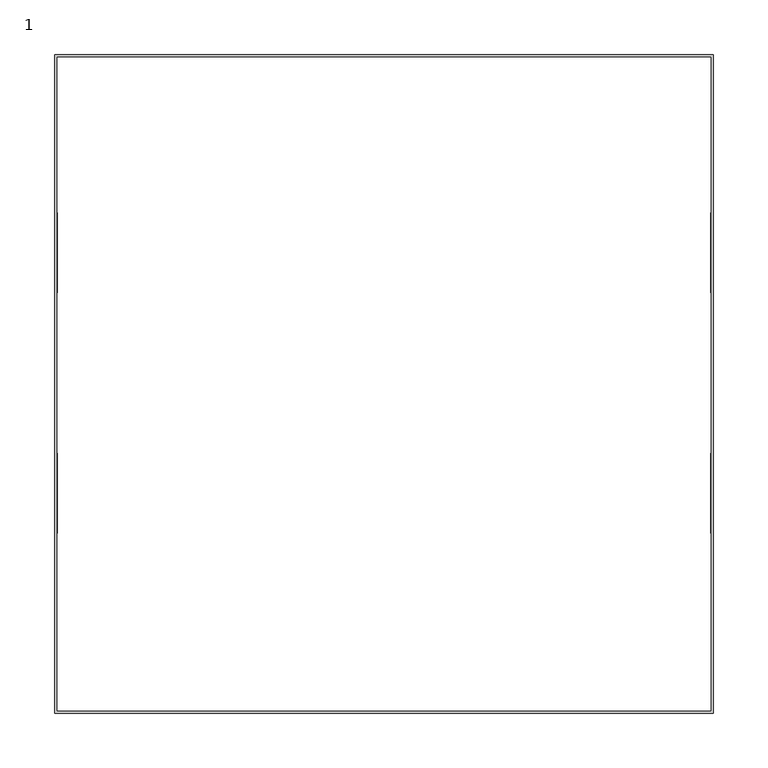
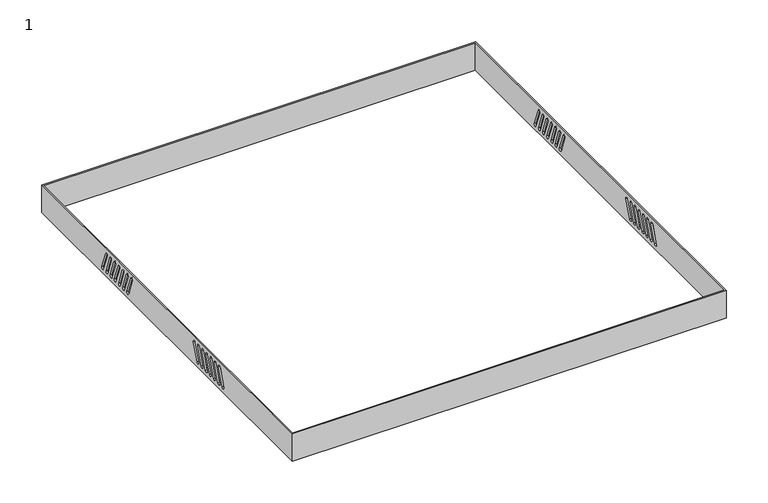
"""IFC4 building model written with IfcOpenShell, lengths in millimetres: proxy geometry, 1."""

from ifc_helpers import new_model, si_unit, frame, origin, place, context, project, spatial, polyline, circle_curve, source, transform, mapped, element, save
from ifc_brep_helpers import plane_surface, revolved_surface, advanced_brep


def proxy_1_0199d2f3(model_context):
    return source(origin(), model_context, "Body", "AdvancedBrep", [
        advanced_brep(
        [(298.0, -298.0, 0.0), (298.0, -298.0, 40.0), (298.0, 298.0, 40.0), (298.0, 298.0, 0.0), (298.0, -135.8, 8.2520321), (298.0, -132.0412295, 6.8839516), (298.0, -123.1487058, 31.3159597), (298.0, -126.9074763, 32.6840403), (298.0, -125.8, 8.2520321), (298.0, -122.0412295, 6.8839516), (298.0, -113.1487058, 31.3159597), (298.0, -116.9074763, 32.6840403), (298.0, -115.8, 8.2520321), (298.0, -112.0412295, 6.8839516), (298.0, -103.1487058, 31.3159597), (298.0, -106.9074763, 32.6840403), (298.0, -105.8, 8.2520321), (298.0, -102.0412295, 6.8839516), (298.0, -93.1487058, 31.3159597), (298.0, -96.9074763, 32.6840403), (298.0, -95.8, 8.2520321), (298.0, -92.0412295, 6.8839516), (298.0, -83.1487058, 31.3159597), (298.0, -86.9074763, 32.6840403), (298.0, -85.8, 8.2520321), (298.0, -82.0412295, 6.8839516), (298.0, -73.1487058, 31.3159597), (298.0, -76.9074763, 32.6840403), (298.0, -75.8, 8.2520321), (298.0, -72.0412295, 6.8839516), (298.0, -63.1487058, 31.3159597), (298.0, -66.9074763, 32.6840403), (298.0, 152.2412295, 6.8839516), (298.0, 156.0, 8.2520321), (298.0, 147.1074763, 32.6840403), (298.0, 143.3487058, 31.3159597), (298.0, 142.2412295, 6.8839516), (298.0, 146.0, 8.2520321), (298.0, 137.1074763, 32.6840403), (298.0, 133.3487058, 31.3159597), (298.0, 132.2412295, 6.8839516), (298.0, 136.0, 8.2520321), (298.0, 127.1074763, 32.6840403), (298.0, 123.3487058, 31.3159597), (298.0, 122.2412295, 6.8839516), (298.0, 126.0, 8.2520321), (298.0, 117.1074763, 32.6840403), (298.0, 113.3487058, 31.3159597), (298.0, 112.2412295, 6.8839516), (298.0, 116.0, 8.2520321), (298.0, 107.1074763, 32.6840403), (298.0, 103.3487058, 31.3159597), (298.0, 102.2412295, 6.8839516), (298.0, 106.0, 8.2520321), (298.0, 97.1074763, 32.6840403), (298.0, 93.3487058, 31.3159597), (298.0, 92.2412295, 6.8839516), (298.0, 96.0, 8.2520321), (298.0, 87.1074763, 32.6840403), (298.0, 83.3487058, 31.3159597), (300.0, -300.0, 0.0), (300.0, 300.0, 0.0), (300.0, 300.0, 40.0), (300.0, -300.0, 40.0), (300.0, -132.0412295, 6.8839516), (300.0, -135.8, 8.2520321), (300.0, -126.9074763, 32.6840403), (300.0, -123.1487058, 31.3159597), (300.0, -122.0412295, 6.8839516), (300.0, -125.8, 8.2520321), (300.0, -116.9074763, 32.6840403), (300.0, -113.1487058, 31.3159597), (300.0, -112.0412295, 6.8839516), (300.0, -115.8, 8.2520321), (300.0, -106.9074763, 32.6840403), (300.0, -103.1487058, 31.3159597), (300.0, -102.0412295, 6.8839516), (300.0, -105.8, 8.2520321), (300.0, -96.9074763, 32.6840403), (300.0, -93.1487058, 31.3159597), (300.0, -92.0412295, 6.8839516), (300.0, -95.8, 8.2520321), (300.0, -86.9074763, 32.6840403), (300.0, -83.1487058, 31.3159597), (300.0, -82.0412295, 6.8839516), (300.0, -85.8, 8.2520321), (300.0, -76.9074763, 32.6840403), (300.0, -73.1487058, 31.3159597), (300.0, -72.0412295, 6.8839516), (300.0, -75.8, 8.2520321), (300.0, -66.9074763, 32.6840403), (300.0, -63.1487058, 31.3159597), (300.0, 156.0, 8.2520321), (300.0, 152.2412295, 6.8839516), (300.0, 143.3487058, 31.3159597), (300.0, 147.1074763, 32.6840403), (300.0, 146.0, 8.2520321), (300.0, 142.2412295, 6.8839516), (300.0, 133.3487058, 31.3159597), (300.0, 137.1074763, 32.6840403), (300.0, 136.0, 8.2520321), (300.0, 132.2412295, 6.8839516), (300.0, 123.3487058, 31.3159597), (300.0, 127.1074763, 32.6840403), (300.0, 126.0, 8.2520321), (300.0, 122.2412295, 6.8839516), (300.0, 113.3487058, 31.3159597), (300.0, 117.1074763, 32.6840403), (300.0, 116.0, 8.2520321), (300.0, 112.2412295, 6.8839516), (300.0, 103.3487058, 31.3159597), (300.0, 107.1074763, 32.6840403), (300.0, 106.0, 8.2520321), (300.0, 102.2412295, 6.8839516), (300.0, 93.3487058, 31.3159597), (300.0, 97.1074763, 32.6840403), (300.0, 96.0, 8.2520321), (300.0, 92.2412295, 6.8839516), (300.0, 83.3487058, 31.3159597), (300.0, 87.1074763, 32.6840403), (-300.0, -300.0, 0.0), (-300.0, 300.0, 0.0), (-298.0, 298.0, 0.0), (-298.0, -298.0, 0.0), (-300.0, -300.0, 40.0), (-300.0, 300.0, 40.0), (-298.0, -298.0, 40.0), (-298.0, 298.0, 40.0), (-298.0, 96.0, 8.2520321), (-298.0, 92.2412295, 6.8839516), (-298.0, 83.3487058, 31.3159597), (-298.0, 87.1074763, 32.6840403), (-298.0, 106.0, 8.2520321), (-298.0, 102.2412295, 6.8839516), (-298.0, 93.3487058, 31.3159597), (-298.0, 97.1074763, 32.6840403), (-298.0, 116.0, 8.2520321), (-298.0, 112.2412295, 6.8839516), (-298.0, 103.3487058, 31.3159597), (-298.0, 107.1074763, 32.6840403), (-298.0, 126.0, 8.2520321), (-298.0, 122.2412295, 6.8839516), (-298.0, 113.3487058, 31.3159597), (-298.0, 117.1074763, 32.6840403), (-298.0, 136.0, 8.2520321), (-298.0, 132.2412295, 6.8839516), (-298.0, 123.3487058, 31.3159597), (-298.0, 127.1074763, 32.6840403), (-298.0, 146.0, 8.2520321), (-298.0, 142.2412295, 6.8839516), (-298.0, 133.3487058, 31.3159597), (-298.0, 137.1074763, 32.6840403), (-298.0, 156.0, 8.2520321), (-298.0, 152.2412295, 6.8839516), (-298.0, 143.3487058, 31.3159597), (-298.0, 147.1074763, 32.6840403), (-298.0, -66.9074763, 32.6840403), (-298.0, -63.1487058, 31.3159597), (-298.0, -72.0412295, 6.8839516), (-298.0, -75.8, 8.2520321), (-298.0, -76.9074763, 32.6840403), (-298.0, -73.1487058, 31.3159597), (-298.0, -82.0412295, 6.8839516), (-298.0, -85.8, 8.2520321), (-298.0, -86.9074763, 32.6840403), (-298.0, -83.1487058, 31.3159597), (-298.0, -92.0412295, 6.8839516), (-298.0, -95.8, 8.2520321), (-298.0, -96.9074763, 32.6840403), (-298.0, -93.1487058, 31.3159597), (-298.0, -102.0412295, 6.8839516), (-298.0, -105.8, 8.2520321), (-298.0, -106.9074763, 32.6840403), (-298.0, -103.1487058, 31.3159597), (-298.0, -112.0412295, 6.8839516), (-298.0, -115.8, 8.2520321), (-298.0, -116.9074763, 32.6840403), (-298.0, -113.1487058, 31.3159597), (-298.0, -122.0412295, 6.8839516), (-298.0, -125.8, 8.2520321), (-298.0, -126.9074763, 32.6840403), (-298.0, -123.1487058, 31.3159597), (-298.0, -132.0412295, 6.8839516), (-298.0, -135.8, 8.2520321), (-300.0, 92.2412295, 6.8839516), (-300.0, 96.0, 8.2520321), (-300.0, 87.1074763, 32.6840403), (-300.0, 83.3487058, 31.3159597), (-300.0, 102.2412295, 6.8839516), (-300.0, 106.0, 8.2520321), (-300.0, 97.1074763, 32.6840403), (-300.0, 93.3487058, 31.3159597), (-300.0, 112.2412295, 6.8839516), (-300.0, 116.0, 8.2520321), (-300.0, 107.1074763, 32.6840403), (-300.0, 103.3487058, 31.3159597), (-300.0, 122.2412295, 6.8839516), (-300.0, 126.0, 8.2520321), (-300.0, 117.1074763, 32.6840403), (-300.0, 113.3487058, 31.3159597), (-300.0, 132.2412295, 6.8839516), (-300.0, 136.0, 8.2520321), (-300.0, 127.1074763, 32.6840403), (-300.0, 123.3487058, 31.3159597), (-300.0, 142.2412295, 6.8839516), (-300.0, 146.0, 8.2520321), (-300.0, 137.1074763, 32.6840403), (-300.0, 133.3487058, 31.3159597), (-300.0, 152.2412295, 6.8839516), (-300.0, 156.0, 8.2520321), (-300.0, 147.1074763, 32.6840403), (-300.0, 143.3487058, 31.3159597), (-300.0, -63.1487058, 31.3159597), (-300.0, -66.9074763, 32.6840403), (-300.0, -75.8, 8.2520321), (-300.0, -72.0412295, 6.8839516), (-300.0, -73.1487058, 31.3159597), (-300.0, -76.9074763, 32.6840403), (-300.0, -85.8, 8.2520321), (-300.0, -82.0412295, 6.8839516), (-300.0, -83.1487058, 31.3159597), (-300.0, -86.9074763, 32.6840403), (-300.0, -95.8, 8.2520321), (-300.0, -92.0412295, 6.8839516), (-300.0, -93.1487058, 31.3159597), (-300.0, -96.9074763, 32.6840403), (-300.0, -105.8, 8.2520321), (-300.0, -102.0412295, 6.8839516), (-300.0, -103.1487058, 31.3159597), (-300.0, -106.9074763, 32.6840403), (-300.0, -115.8, 8.2520321), (-300.0, -112.0412295, 6.8839516), (-300.0, -113.1487058, 31.3159597), (-300.0, -116.9074763, 32.6840403), (-300.0, -125.8, 8.2520321), (-300.0, -122.0412295, 6.8839516), (-300.0, -123.1487058, 31.3159597), (-300.0, -126.9074763, 32.6840403), (-300.0, -135.8, 8.2520321), (-300.0, -132.0412295, 6.8839516)],
        [
            (0, 1),
            (1, 2),
            (2, 3),
            (3, 0),
            (4, 5, circle_curve(frame((298.0, -133.9206148, 7.5679919), z_axis=(1.0, 0.0, 0.0), x_axis=(0.0, -1.0, 0.0)), 2.0)),
            (5, 6),
            (6, 7, circle_curve(frame((298.0, -125.028091, 32.0), z_axis=(1.0, 0.0, 0.0), x_axis=(0.0, -1.0, 0.0)), 2.0)),
            (7, 4),
            (8, 9, circle_curve(frame((298.0, -123.9206148, 7.5679919), z_axis=(1.0, 0.0, 0.0), x_axis=(0.0, -1.0, 0.0)), 2.0)),
            (9, 10),
            (10, 11, circle_curve(frame((298.0, -115.028091, 32.0), z_axis=(1.0, 0.0, 0.0), x_axis=(0.0, -1.0, 0.0)), 2.0)),
            (11, 8),
            (12, 13, circle_curve(frame((298.0, -113.9206148, 7.5679919), z_axis=(1.0, 0.0, 0.0), x_axis=(0.0, -1.0, 0.0)), 2.0)),
            (13, 14),
            (14, 15, circle_curve(frame((298.0, -105.028091, 32.0), z_axis=(1.0, 0.0, 0.0), x_axis=(0.0, -1.0, 0.0)), 2.0)),
            (15, 12),
            (16, 17, circle_curve(frame((298.0, -103.9206148, 7.5679919), z_axis=(1.0, 0.0, 0.0), x_axis=(0.0, -1.0, 0.0)), 2.0)),
            (17, 18),
            (18, 19, circle_curve(frame((298.0, -95.028091, 32.0), z_axis=(1.0, 0.0, 0.0), x_axis=(0.0, -1.0, 0.0)), 2.0)),
            (19, 16),
            (20, 21, circle_curve(frame((298.0, -93.9206148, 7.5679919), z_axis=(1.0, 0.0, 0.0), x_axis=(0.0, -1.0, 0.0)), 2.0)),
            (21, 22),
            (22, 23, circle_curve(frame((298.0, -85.028091, 32.0), z_axis=(1.0, 0.0, 0.0), x_axis=(0.0, -1.0, 0.0)), 2.0)),
            (23, 20),
            (24, 25, circle_curve(frame((298.0, -83.9206148, 7.5679919), z_axis=(1.0, 0.0, 0.0), x_axis=(0.0, -1.0, 0.0)), 2.0)),
            (25, 26),
            (26, 27, circle_curve(frame((298.0, -75.028091, 32.0), z_axis=(1.0, 0.0, 0.0), x_axis=(0.0, -1.0, 0.0)), 2.0)),
            (27, 24),
            (28, 29, circle_curve(frame((298.0, -73.9206148, 7.5679919), z_axis=(1.0, 0.0, 0.0), x_axis=(0.0, -1.0, 0.0)), 2.0)),
            (29, 30),
            (30, 31, circle_curve(frame((298.0, -65.028091, 32.0), z_axis=(1.0, 0.0, 0.0), x_axis=(0.0, -1.0, 0.0)), 2.0)),
            (31, 28),
            (32, 33, circle_curve(frame((298.0, 154.1206148, 7.5679919), z_axis=(1.0, 0.0, 0.0), x_axis=(0.0, 1.0, 0.0)), 2.0)),
            (33, 34),
            (34, 35, circle_curve(frame((298.0, 145.228091, 32.0), z_axis=(1.0, 0.0, 0.0), x_axis=(0.0, 1.0, 0.0)), 2.0)),
            (35, 32),
            (36, 37, circle_curve(frame((298.0, 144.1206148, 7.5679919), z_axis=(1.0, 0.0, 0.0), x_axis=(0.0, 1.0, 0.0)), 2.0)),
            (37, 38),
            (38, 39, circle_curve(frame((298.0, 135.228091, 32.0), z_axis=(1.0, 0.0, 0.0), x_axis=(0.0, 1.0, 0.0)), 2.0)),
            (39, 36),
            (40, 41, circle_curve(frame((298.0, 134.1206148, 7.5679919), z_axis=(1.0, 0.0, 0.0), x_axis=(0.0, 1.0, 0.0)), 2.0)),
            (41, 42),
            (42, 43, circle_curve(frame((298.0, 125.228091, 32.0), z_axis=(1.0, 0.0, 0.0), x_axis=(0.0, 1.0, 0.0)), 2.0)),
            (43, 40),
            (44, 45, circle_curve(frame((298.0, 124.1206148, 7.5679919), z_axis=(1.0, 0.0, 0.0), x_axis=(0.0, 1.0, 0.0)), 2.0)),
            (45, 46),
            (46, 47, circle_curve(frame((298.0, 115.228091, 32.0), z_axis=(1.0, 0.0, 0.0), x_axis=(0.0, 1.0, 0.0)), 2.0)),
            (47, 44),
            (48, 49, circle_curve(frame((298.0, 114.1206148, 7.5679919), z_axis=(1.0, 0.0, 0.0), x_axis=(0.0, 1.0, 0.0)), 2.0)),
            (49, 50),
            (50, 51, circle_curve(frame((298.0, 105.228091, 32.0), z_axis=(1.0, 0.0, 0.0), x_axis=(0.0, 1.0, 0.0)), 2.0)),
            (51, 48),
            (52, 53, circle_curve(frame((298.0, 104.1206148, 7.5679919), z_axis=(1.0, 0.0, 0.0), x_axis=(0.0, 1.0, 0.0)), 2.0)),
            (53, 54),
            (54, 55, circle_curve(frame((298.0, 95.228091, 32.0), z_axis=(1.0, 0.0, 0.0), x_axis=(0.0, 1.0, 0.0)), 2.0)),
            (55, 52),
            (56, 57, circle_curve(frame((298.0, 94.1206148, 7.5679919), z_axis=(1.0, 0.0, 0.0), x_axis=(0.0, 1.0, 0.0)), 2.0)),
            (57, 58),
            (58, 59, circle_curve(frame((298.0, 85.228091, 32.0), z_axis=(1.0, 0.0, 0.0), x_axis=(0.0, 1.0, 0.0)), 2.0)),
            (59, 56),
            (60, 61),
            (61, 62),
            (62, 63),
            (63, 60),
            (64, 65, circle_curve(frame((300.0, -133.9206148, 7.5679919), z_axis=(-1.0, 0.0, 0.0), x_axis=(0.0, -1.0, 0.0)), 2.0)),
            (65, 66),
            (66, 67, circle_curve(frame((300.0, -125.028091, 32.0), z_axis=(-1.0, 0.0, 0.0), x_axis=(0.0, -1.0, 0.0)), 2.0)),
            (67, 64),
            (68, 69, circle_curve(frame((300.0, -123.9206148, 7.5679919), z_axis=(-1.0, 0.0, 0.0), x_axis=(0.0, -1.0, 0.0)), 2.0)),
            (69, 70),
            (70, 71, circle_curve(frame((300.0, -115.028091, 32.0), z_axis=(-1.0, 0.0, 0.0), x_axis=(0.0, -1.0, 0.0)), 2.0)),
            (71, 68),
            (72, 73, circle_curve(frame((300.0, -113.9206148, 7.5679919), z_axis=(-1.0, 0.0, 0.0), x_axis=(0.0, -1.0, 0.0)), 2.0)),
            (73, 74),
            (74, 75, circle_curve(frame((300.0, -105.028091, 32.0), z_axis=(-1.0, 0.0, 0.0), x_axis=(0.0, -1.0, 0.0)), 2.0)),
            (75, 72),
            (76, 77, circle_curve(frame((300.0, -103.9206148, 7.5679919), z_axis=(-1.0, 0.0, 0.0), x_axis=(0.0, -1.0, 0.0)), 2.0)),
            (77, 78),
            (78, 79, circle_curve(frame((300.0, -95.028091, 32.0), z_axis=(-1.0, 0.0, 0.0), x_axis=(0.0, -1.0, 0.0)), 2.0)),
            (79, 76),
            (80, 81, circle_curve(frame((300.0, -93.9206148, 7.5679919), z_axis=(-1.0, 0.0, 0.0), x_axis=(0.0, -1.0, 0.0)), 2.0)),
            (81, 82),
            (82, 83, circle_curve(frame((300.0, -85.028091, 32.0), z_axis=(-1.0, 0.0, 0.0), x_axis=(0.0, -1.0, 0.0)), 2.0)),
            (83, 80),
            (84, 85, circle_curve(frame((300.0, -83.9206148, 7.5679919), z_axis=(-1.0, 0.0, 0.0), x_axis=(0.0, -1.0, 0.0)), 2.0)),
            (85, 86),
            (86, 87, circle_curve(frame((300.0, -75.028091, 32.0), z_axis=(-1.0, 0.0, 0.0), x_axis=(0.0, -1.0, 0.0)), 2.0)),
            (87, 84),
            (88, 89, circle_curve(frame((300.0, -73.9206148, 7.5679919), z_axis=(-1.0, 0.0, 0.0), x_axis=(0.0, -1.0, 0.0)), 2.0)),
            (89, 90),
            (90, 91, circle_curve(frame((300.0, -65.028091, 32.0), z_axis=(-1.0, 0.0, 0.0), x_axis=(0.0, -1.0, 0.0)), 2.0)),
            (91, 88),
            (92, 93, circle_curve(frame((300.0, 154.1206148, 7.5679919), z_axis=(-1.0, 0.0, 0.0), x_axis=(0.0, 1.0, 0.0)), 2.0)),
            (93, 94),
            (94, 95, circle_curve(frame((300.0, 145.228091, 32.0), z_axis=(-1.0, 0.0, 0.0), x_axis=(0.0, 1.0, 0.0)), 2.0)),
            (95, 92),
            (96, 97, circle_curve(frame((300.0, 144.1206148, 7.5679919), z_axis=(-1.0, 0.0, 0.0), x_axis=(0.0, 1.0, 0.0)), 2.0)),
            (97, 98),
            (98, 99, circle_curve(frame((300.0, 135.228091, 32.0), z_axis=(-1.0, 0.0, 0.0), x_axis=(0.0, 1.0, 0.0)), 2.0)),
            (99, 96),
            (100, 101, circle_curve(frame((300.0, 134.1206148, 7.5679919), z_axis=(-1.0, 0.0, 0.0), x_axis=(0.0, 1.0, 0.0)), 2.0)),
            (101, 102),
            (102, 103, circle_curve(frame((300.0, 125.228091, 32.0), z_axis=(-1.0, 0.0, 0.0), x_axis=(0.0, 1.0, 0.0)), 2.0)),
            (103, 100),
            (104, 105, circle_curve(frame((300.0, 124.1206148, 7.5679919), z_axis=(-1.0, 0.0, 0.0), x_axis=(0.0, 1.0, 0.0)), 2.0)),
            (105, 106),
            (106, 107, circle_curve(frame((300.0, 115.228091, 32.0), z_axis=(-1.0, 0.0, 0.0), x_axis=(0.0, 1.0, 0.0)), 2.0)),
            (107, 104),
            (108, 109, circle_curve(frame((300.0, 114.1206148, 7.5679919), z_axis=(-1.0, 0.0, 0.0), x_axis=(0.0, 1.0, 0.0)), 2.0)),
            (109, 110),
            (110, 111, circle_curve(frame((300.0, 105.228091, 32.0), z_axis=(-1.0, 0.0, 0.0), x_axis=(0.0, 1.0, 0.0)), 2.0)),
            (111, 108),
            (112, 113, circle_curve(frame((300.0, 104.1206148, 7.5679919), z_axis=(-1.0, 0.0, 0.0), x_axis=(0.0, 1.0, 0.0)), 2.0)),
            (113, 114),
            (114, 115, circle_curve(frame((300.0, 95.228091, 32.0), z_axis=(-1.0, 0.0, 0.0), x_axis=(0.0, 1.0, 0.0)), 2.0)),
            (115, 112),
            (116, 117, circle_curve(frame((300.0, 94.1206148, 7.5679919), z_axis=(-1.0, 0.0, 0.0), x_axis=(0.0, 1.0, 0.0)), 2.0)),
            (117, 118),
            (118, 119, circle_curve(frame((300.0, 85.228091, 32.0), z_axis=(-1.0, 0.0, 0.0), x_axis=(0.0, 1.0, 0.0)), 2.0)),
            (119, 116),
            (60, 120),
            (120, 121),
            (121, 61),
            (3, 122),
            (122, 123),
            (123, 0),
            (63, 124),
            (124, 120),
            (62, 125),
            (125, 124),
            (126, 127),
            (127, 2),
            (1, 126),
            (121, 125),
            (64, 5),
            (4, 65),
            (67, 6),
            (66, 7),
            (68, 9),
            (8, 69),
            (71, 10),
            (70, 11),
            (72, 13),
            (12, 73),
            (75, 14),
            (74, 15),
            (76, 17),
            (16, 77),
            (79, 18),
            (78, 19),
            (80, 21),
            (20, 81),
            (83, 22),
            (82, 23),
            (84, 25),
            (24, 85),
            (87, 26),
            (86, 27),
            (88, 29),
            (28, 89),
            (91, 30),
            (90, 31),
            (92, 33),
            (32, 93),
            (35, 94),
            (34, 95),
            (96, 37),
            (36, 97),
            (39, 98),
            (38, 99),
            (100, 41),
            (40, 101),
            (43, 102),
            (42, 103),
            (104, 45),
            (44, 105),
            (47, 106),
            (46, 107),
            (108, 49),
            (48, 109),
            (51, 110),
            (50, 111),
            (112, 53),
            (52, 113),
            (55, 114),
            (54, 115),
            (116, 57),
            (56, 117),
            (59, 118),
            (58, 119),
            (123, 126),
            (122, 127),
            (128, 129, circle_curve(frame((-298.0, 94.1206148, 7.5679919), z_axis=(-1.0, 0.0, 0.0), x_axis=(0.0, 1.0, 0.0)), 2.0)),
            (129, 130),
            (130, 131, circle_curve(frame((-298.0, 85.228091, 32.0), z_axis=(-1.0, 0.0, 0.0), x_axis=(0.0, 1.0, 0.0)), 2.0)),
            (131, 128),
            (132, 133, circle_curve(frame((-298.0, 104.1206148, 7.5679919), z_axis=(-1.0, 0.0, 0.0), x_axis=(0.0, 1.0, 0.0)), 2.0)),
            (133, 134),
            (134, 135, circle_curve(frame((-298.0, 95.228091, 32.0), z_axis=(-1.0, 0.0, 0.0), x_axis=(0.0, 1.0, 0.0)), 2.0)),
            (135, 132),
            (136, 137, circle_curve(frame((-298.0, 114.1206148, 7.5679919), z_axis=(-1.0, 0.0, 0.0), x_axis=(0.0, 1.0, 0.0)), 2.0)),
            (137, 138),
            (138, 139, circle_curve(frame((-298.0, 105.228091, 32.0), z_axis=(-1.0, 0.0, 0.0), x_axis=(0.0, 1.0, 0.0)), 2.0)),
            (139, 136),
            (140, 141, circle_curve(frame((-298.0, 124.1206148, 7.5679919), z_axis=(-1.0, 0.0, 0.0), x_axis=(0.0, 1.0, 0.0)), 2.0)),
            (141, 142),
            (142, 143, circle_curve(frame((-298.0, 115.228091, 32.0), z_axis=(-1.0, 0.0, 0.0), x_axis=(0.0, 1.0, 0.0)), 2.0)),
            (143, 140),
            (144, 145, circle_curve(frame((-298.0, 134.1206148, 7.5679919), z_axis=(-1.0, 0.0, 0.0), x_axis=(0.0, 1.0, 0.0)), 2.0)),
            (145, 146),
            (146, 147, circle_curve(frame((-298.0, 125.228091, 32.0), z_axis=(-1.0, 0.0, 0.0), x_axis=(0.0, 1.0, 0.0)), 2.0)),
            (147, 144),
            (148, 149, circle_curve(frame((-298.0, 144.1206148, 7.5679919), z_axis=(-1.0, 0.0, 0.0), x_axis=(0.0, 1.0, 0.0)), 2.0)),
            (149, 150),
            (150, 151, circle_curve(frame((-298.0, 135.228091, 32.0), z_axis=(-1.0, 0.0, 0.0), x_axis=(0.0, 1.0, 0.0)), 2.0)),
            (151, 148),
            (152, 153, circle_curve(frame((-298.0, 154.1206148, 7.5679919), z_axis=(-1.0, 0.0, 0.0), x_axis=(0.0, 1.0, 0.0)), 2.0)),
            (153, 154),
            (154, 155, circle_curve(frame((-298.0, 145.228091, 32.0), z_axis=(-1.0, 0.0, 0.0), x_axis=(0.0, 1.0, 0.0)), 2.0)),
            (155, 152),
            (156, 157, circle_curve(frame((-298.0, -65.028091, 32.0), z_axis=(-1.0, 0.0, 0.0), x_axis=(0.0, 1.0, 0.0)), 2.0)),
            (157, 158),
            (158, 159, circle_curve(frame((-298.0, -73.9206148, 7.5679919), z_axis=(-1.0, 0.0, 0.0), x_axis=(0.0, 1.0, 0.0)), 2.0)),
            (159, 156),
            (160, 161, circle_curve(frame((-298.0, -75.028091, 32.0), z_axis=(-1.0, 0.0, 0.0), x_axis=(0.0, 1.0, 0.0)), 2.0)),
            (161, 162),
            (162, 163, circle_curve(frame((-298.0, -83.9206148, 7.5679919), z_axis=(-1.0, 0.0, 0.0), x_axis=(0.0, 1.0, 0.0)), 2.0)),
            (163, 160),
            (164, 165, circle_curve(frame((-298.0, -85.028091, 32.0), z_axis=(-1.0, 0.0, 0.0), x_axis=(0.0, 1.0, 0.0)), 2.0)),
            (165, 166),
            (166, 167, circle_curve(frame((-298.0, -93.9206148, 7.5679919), z_axis=(-1.0, 0.0, 0.0), x_axis=(0.0, 1.0, 0.0)), 2.0)),
            (167, 164),
            (168, 169, circle_curve(frame((-298.0, -95.028091, 32.0), z_axis=(-1.0, 0.0, 0.0), x_axis=(0.0, 1.0, 0.0)), 2.0)),
            (169, 170),
            (170, 171, circle_curve(frame((-298.0, -103.9206148, 7.5679919), z_axis=(-1.0, 0.0, 0.0), x_axis=(0.0, 1.0, 0.0)), 2.0)),
            (171, 168),
            (172, 173, circle_curve(frame((-298.0, -105.028091, 32.0), z_axis=(-1.0, 0.0, 0.0), x_axis=(0.0, 1.0, 0.0)), 2.0)),
            (173, 174),
            (174, 175, circle_curve(frame((-298.0, -113.9206148, 7.5679919), z_axis=(-1.0, 0.0, 0.0), x_axis=(0.0, 1.0, 0.0)), 2.0)),
            (175, 172),
            (176, 177, circle_curve(frame((-298.0, -115.028091, 32.0), z_axis=(-1.0, 0.0, 0.0), x_axis=(0.0, 1.0, 0.0)), 2.0)),
            (177, 178),
            (178, 179, circle_curve(frame((-298.0, -123.9206148, 7.5679919), z_axis=(-1.0, 0.0, 0.0), x_axis=(0.0, 1.0, 0.0)), 2.0)),
            (179, 176),
            (180, 181, circle_curve(frame((-298.0, -125.028091, 32.0), z_axis=(-1.0, 0.0, 0.0), x_axis=(0.0, 1.0, 0.0)), 2.0)),
            (181, 182),
            (182, 183, circle_curve(frame((-298.0, -133.9206148, 7.5679919), z_axis=(-1.0, 0.0, 0.0), x_axis=(0.0, 1.0, 0.0)), 2.0)),
            (183, 180),
            (184, 185, circle_curve(frame((-300.0, 94.1206148, 7.5679919), z_axis=(1.0, 0.0, 0.0), x_axis=(0.0, 1.0, 0.0)), 2.0)),
            (185, 186),
            (186, 187, circle_curve(frame((-300.0, 85.228091, 32.0), z_axis=(1.0, 0.0, 0.0), x_axis=(0.0, 1.0, 0.0)), 2.0)),
            (187, 184),
            (188, 189, circle_curve(frame((-300.0, 104.1206148, 7.5679919), z_axis=(1.0, 0.0, 0.0), x_axis=(0.0, 1.0, 0.0)), 2.0)),
            (189, 190),
            (190, 191, circle_curve(frame((-300.0, 95.228091, 32.0), z_axis=(1.0, 0.0, 0.0), x_axis=(0.0, 1.0, 0.0)), 2.0)),
            (191, 188),
            (192, 193, circle_curve(frame((-300.0, 114.1206148, 7.5679919), z_axis=(1.0, 0.0, 0.0), x_axis=(0.0, 1.0, 0.0)), 2.0)),
            (193, 194),
            (194, 195, circle_curve(frame((-300.0, 105.228091, 32.0), z_axis=(1.0, 0.0, 0.0), x_axis=(0.0, 1.0, 0.0)), 2.0)),
            (195, 192),
            (196, 197, circle_curve(frame((-300.0, 124.1206148, 7.5679919), z_axis=(1.0, 0.0, 0.0), x_axis=(0.0, 1.0, 0.0)), 2.0)),
            (197, 198),
            (198, 199, circle_curve(frame((-300.0, 115.228091, 32.0), z_axis=(1.0, 0.0, 0.0), x_axis=(0.0, 1.0, 0.0)), 2.0)),
            (199, 196),
            (200, 201, circle_curve(frame((-300.0, 134.1206148, 7.5679919), z_axis=(1.0, 0.0, 0.0), x_axis=(0.0, 1.0, 0.0)), 2.0)),
            (201, 202),
            (202, 203, circle_curve(frame((-300.0, 125.228091, 32.0), z_axis=(1.0, 0.0, 0.0), x_axis=(0.0, 1.0, 0.0)), 2.0)),
            (203, 200),
            (204, 205, circle_curve(frame((-300.0, 144.1206148, 7.5679919), z_axis=(1.0, 0.0, 0.0), x_axis=(0.0, 1.0, 0.0)), 2.0)),
            (205, 206),
            (206, 207, circle_curve(frame((-300.0, 135.228091, 32.0), z_axis=(1.0, 0.0, 0.0), x_axis=(0.0, 1.0, 0.0)), 2.0)),
            (207, 204),
            (208, 209, circle_curve(frame((-300.0, 154.1206148, 7.5679919), z_axis=(1.0, 0.0, 0.0), x_axis=(0.0, 1.0, 0.0)), 2.0)),
            (209, 210),
            (210, 211, circle_curve(frame((-300.0, 145.228091, 32.0), z_axis=(1.0, 0.0, 0.0), x_axis=(0.0, 1.0, 0.0)), 2.0)),
            (211, 208),
            (212, 213, circle_curve(frame((-300.0, -65.028091, 32.0), z_axis=(1.0, 0.0, 0.0), x_axis=(0.0, 1.0, 0.0)), 2.0)),
            (213, 214),
            (214, 215, circle_curve(frame((-300.0, -73.9206148, 7.5679919), z_axis=(1.0, 0.0, 0.0), x_axis=(0.0, 1.0, 0.0)), 2.0)),
            (215, 212),
            (216, 217, circle_curve(frame((-300.0, -75.028091, 32.0), z_axis=(1.0, 0.0, 0.0), x_axis=(0.0, 1.0, 0.0)), 2.0)),
            (217, 218),
            (218, 219, circle_curve(frame((-300.0, -83.9206148, 7.5679919), z_axis=(1.0, 0.0, 0.0), x_axis=(0.0, 1.0, 0.0)), 2.0)),
            (219, 216),
            (220, 221, circle_curve(frame((-300.0, -85.028091, 32.0), z_axis=(1.0, 0.0, 0.0), x_axis=(0.0, 1.0, 0.0)), 2.0)),
            (221, 222),
            (222, 223, circle_curve(frame((-300.0, -93.9206148, 7.5679919), z_axis=(1.0, 0.0, 0.0), x_axis=(0.0, 1.0, 0.0)), 2.0)),
            (223, 220),
            (224, 225, circle_curve(frame((-300.0, -95.028091, 32.0), z_axis=(1.0, 0.0, 0.0), x_axis=(0.0, 1.0, 0.0)), 2.0)),
            (225, 226),
            (226, 227, circle_curve(frame((-300.0, -103.9206148, 7.5679919), z_axis=(1.0, 0.0, 0.0), x_axis=(0.0, 1.0, 0.0)), 2.0)),
            (227, 224),
            (228, 229, circle_curve(frame((-300.0, -105.028091, 32.0), z_axis=(1.0, 0.0, 0.0), x_axis=(0.0, 1.0, 0.0)), 2.0)),
            (229, 230),
            (230, 231, circle_curve(frame((-300.0, -113.9206148, 7.5679919), z_axis=(1.0, 0.0, 0.0), x_axis=(0.0, 1.0, 0.0)), 2.0)),
            (231, 228),
            (232, 233, circle_curve(frame((-300.0, -115.028091, 32.0), z_axis=(1.0, 0.0, 0.0), x_axis=(0.0, 1.0, 0.0)), 2.0)),
            (233, 234),
            (234, 235, circle_curve(frame((-300.0, -123.9206148, 7.5679919), z_axis=(1.0, 0.0, 0.0), x_axis=(0.0, 1.0, 0.0)), 2.0)),
            (235, 232),
            (236, 237, circle_curve(frame((-300.0, -125.028091, 32.0), z_axis=(1.0, 0.0, 0.0), x_axis=(0.0, 1.0, 0.0)), 2.0)),
            (237, 238),
            (238, 239, circle_curve(frame((-300.0, -133.9206148, 7.5679919), z_axis=(1.0, 0.0, 0.0), x_axis=(0.0, 1.0, 0.0)), 2.0)),
            (239, 236),
            (128, 185),
            (184, 129),
            (131, 186),
            (130, 187),
            (132, 189),
            (188, 133),
            (135, 190),
            (134, 191),
            (136, 193),
            (192, 137),
            (139, 194),
            (138, 195),
            (140, 197),
            (196, 141),
            (143, 198),
            (142, 199),
            (144, 201),
            (200, 145),
            (147, 202),
            (146, 203),
            (148, 205),
            (204, 149),
            (151, 206),
            (150, 207),
            (152, 209),
            (208, 153),
            (155, 210),
            (154, 211),
            (156, 213),
            (212, 157),
            (159, 214),
            (158, 215),
            (160, 217),
            (216, 161),
            (163, 218),
            (162, 219),
            (164, 221),
            (220, 165),
            (167, 222),
            (166, 223),
            (168, 225),
            (224, 169),
            (171, 226),
            (170, 227),
            (172, 229),
            (228, 173),
            (175, 230),
            (174, 231),
            (176, 233),
            (232, 177),
            (179, 234),
            (178, 235),
            (180, 237),
            (236, 181),
            (183, 238),
            (182, 239),
        ],
        [
            plane_surface(frame((298.0, 300.0, 0.0), z_axis=(-1.0, 0.0, 0.0), x_axis=(0.0, 0.0, -1.0))),
            plane_surface(frame((300.0, 300.0, 0.0), z_axis=(1.0, 0.0, 0.0), x_axis=(0.0, 0.0, 1.0))),
            plane_surface(frame((300.0, -300.0, 0.0), z_axis=(0.0, 0.0, -1.0), x_axis=(-1.0, 0.0, 0.0))),
            plane_surface(frame((300.0, -300.0, 40.0), z_axis=(0.0, -1.0, 0.0), x_axis=(-1.0, 0.0, 0.0))),
            plane_surface(frame((300.0, 300.0, 40.0), z_axis=(0.0, 0.0, 1.0), x_axis=(-1.0, 0.0, 0.0))),
            plane_surface(frame((300.0, 300.0, 0.0), z_axis=(0.0, 1.0, 0.0), x_axis=(-1.0, 0.0, 0.0))),
            revolved_surface(polyline([(300.0, -135.9206148, 7.5679919), (298.0, -135.9206148, 7.5679919)]), (298.0, -133.9206148, 7.5679919), (1.0, 0.0, 0.0)),
            plane_surface(frame((300.0, -132.0412295, 6.8839516), z_axis=(0.0, -0.9396926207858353, 0.34202014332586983), x_axis=(-1.0, 0.0, 0.0))),
            revolved_surface(polyline([(300.0, -127.028091, 32.0), (298.0, -127.028091, 32.0)]), (298.0, -125.028091, 32.0), (1.0, 0.0, 0.0)),
            plane_surface(frame((300.0, -126.9074763, 32.6840403), z_axis=(0.0, 0.9396926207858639, -0.34202014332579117), x_axis=(-1.0, 0.0, 0.0))),
            revolved_surface(polyline([(300.0, -125.9206148, 7.5679919), (298.0, -125.9206148, 7.5679919)]), (300.0, -123.9206148, 7.5679919), (1.0, 0.0, 0.0)),
            plane_surface(frame((300.0, -122.0412295, 6.8839516), z_axis=(0.0, -0.9396926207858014, 0.34202014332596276), x_axis=(-1.0, 0.0, 0.0))),
            revolved_surface(polyline([(300.0, -117.028091, 32.0), (298.0, -117.028091, 32.0)]), (300.0, -115.028091, 32.0), (1.0, 0.0, 0.0)),
            plane_surface(frame((300.0, -116.9074763, 32.6840403), z_axis=(0.0, 0.9396926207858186, -0.34202014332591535), x_axis=(-1.0, 0.0, 0.0))),
            revolved_surface(polyline([(300.0, -115.9206148, 7.5679919), (298.0, -115.9206148, 7.5679919)]), (300.0, -113.9206148, 7.5679919), (1.0, 0.0, 0.0)),
            plane_surface(frame((300.0, -112.0412295, 6.8839516), z_axis=(0.0, -0.9396926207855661, 0.3420201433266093), x_axis=(-1.0, 0.0, 0.0))),
            revolved_surface(polyline([(300.0, -107.028091, 32.0), (298.0, -107.028091, 32.0)]), (300.0, -105.028091, 32.0), (1.0, 0.0, 0.0)),
            plane_surface(frame((300.0, -106.9074763, 32.6840403), z_axis=(0.0, 0.9396926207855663, -0.3420201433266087), x_axis=(-1.0, 0.0, 0.0))),
            revolved_surface(polyline([(300.0, -105.9206148, 7.5679919), (298.0, -105.9206148, 7.5679919)]), (300.0, -103.9206148, 7.5679919), (1.0, 0.0, 0.0)),
            plane_surface(frame((300.0, -102.0412295, 6.8839516), z_axis=(0.0, -0.9396926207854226, 0.3420201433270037), x_axis=(-1.0, 0.0, 0.0))),
            revolved_surface(polyline([(300.0, -97.028091, 32.0), (298.0, -97.028091, 32.0)]), (300.0, -95.028091, 32.0), (1.0, 0.0, 0.0)),
            plane_surface(frame((300.0, -96.9074763, 32.6840403), z_axis=(0.0, 0.939692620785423, -0.3420201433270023), x_axis=(-1.0, 0.0, 0.0))),
            revolved_surface(polyline([(300.0, -95.9206148, 7.5679919), (298.0, -95.9206148, 7.5679919)]), (300.0, -93.9206148, 7.5679919), (1.0, 0.0, 0.0)),
            plane_surface(frame((300.0, -92.0412295, 6.8839516), z_axis=(0.0, -0.9396926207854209, 0.34202014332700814), x_axis=(-1.0, 0.0, 0.0))),
            revolved_surface(polyline([(300.0, -87.028091, 32.0), (298.0, -87.028091, 32.0)]), (300.0, -85.028091, 32.0), (1.0, 0.0, 0.0)),
            plane_surface(frame((300.0, -86.9074763, 32.6840403), z_axis=(0.0, 0.9396926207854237, -0.3420201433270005), x_axis=(-1.0, 0.0, 0.0))),
            revolved_surface(polyline([(300.0, -85.9206148, 7.5679919), (298.0, -85.9206148, 7.5679919)]), (300.0, -83.9206148, 7.5679919), (1.0, 0.0, 0.0)),
            plane_surface(frame((300.0, -82.0412295, 6.8839516), z_axis=(0.0, -0.9396926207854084, 0.3420201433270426), x_axis=(-1.0, 0.0, 0.0))),
            revolved_surface(polyline([(300.0, -77.028091, 32.0), (298.0, -77.028091, 32.0)]), (300.0, -75.028091, 32.0), (1.0, 0.0, 0.0)),
            plane_surface(frame((300.0, -76.9074763, 32.6840403), z_axis=(0.0, 0.9396926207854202, -0.3420201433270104), x_axis=(-1.0, 0.0, 0.0))),
            revolved_surface(polyline([(300.0, -75.9206148, 7.5679919), (298.0, -75.9206148, 7.5679919)]), (300.0, -73.9206148, 7.5679919), (1.0, 0.0, 0.0)),
            plane_surface(frame((300.0, -72.0412295, 6.8839516), z_axis=(0.0, -0.9396926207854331, 0.34202014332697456), x_axis=(-1.0, 0.0, 0.0))),
            revolved_surface(polyline([(300.0, -67.028091, 32.0), (298.0, -67.028091, 32.0)]), (300.0, -65.028091, 32.0), (1.0, 0.0, 0.0)),
            plane_surface(frame((300.0, -66.9074763, 32.6840403), z_axis=(0.0, 0.9396926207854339, -0.3420201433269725), x_axis=(-1.0, 0.0, 0.0))),
            revolved_surface(polyline([(300.0, 156.1206148, 7.5679919), (298.0, 156.1206148, 7.5679919)]), (298.0, 154.1206148, 7.5679919), (1.0, 0.0, 0.0)),
            plane_surface(frame((300.0, 143.3487058, 31.3159597), z_axis=(0.0, 0.93969262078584, 0.34202014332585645), x_axis=(-1.0, 0.0, 0.0))),
            revolved_surface(polyline([(300.0, 147.228091, 32.0), (298.0, 147.228091, 32.0)]), (298.0, 145.228091, 32.0), (1.0, 0.0, 0.0)),
            plane_surface(frame((300.0, 156.0, 8.2520321), z_axis=(0.0, -0.9396926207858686, -0.3420201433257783), x_axis=(-1.0, 0.0, 0.0))),
            revolved_surface(polyline([(300.0, 146.1206148, 7.5679919), (298.0, 146.1206148, 7.5679919)]), (300.0, 144.1206148, 7.5679919), (1.0, 0.0, 0.0)),
            plane_surface(frame((300.0, 133.3487058, 31.3159597), z_axis=(0.0, 0.9396926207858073, 0.3420201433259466), x_axis=(-1.0, 0.0, 0.0))),
            revolved_surface(polyline([(300.0, 137.228091, 32.0), (298.0, 137.228091, 32.0)]), (300.0, 135.228091, 32.0), (1.0, 0.0, 0.0)),
            plane_surface(frame((300.0, 146.0, 8.2520321), z_axis=(0.0, -0.9396926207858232, -0.3420201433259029), x_axis=(-1.0, 0.0, 0.0))),
            revolved_surface(polyline([(300.0, 136.1206148, 7.5679919), (298.0, 136.1206148, 7.5679919)]), (300.0, 134.1206148, 7.5679919), (1.0, 0.0, 0.0)),
            plane_surface(frame((300.0, 123.3487058, 31.3159597), z_axis=(0.0, 0.9396926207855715, 0.3420201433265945), x_axis=(-1.0, 0.0, 0.0))),
            revolved_surface(polyline([(300.0, 127.228091, 32.0), (298.0, 127.228091, 32.0)]), (300.0, 125.228091, 32.0), (1.0, 0.0, 0.0)),
            plane_surface(frame((300.0, 136.0, 8.2520321), z_axis=(0.0, -0.9396926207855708, -0.34202014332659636), x_axis=(-1.0, 0.0, 0.0))),
            revolved_surface(polyline([(300.0, 126.1206148, 7.5679919), (298.0, 126.1206148, 7.5679919)]), (300.0, 124.1206148, 7.5679919), (1.0, 0.0, 0.0)),
            plane_surface(frame((300.0, 113.3487058, 31.3159597), z_axis=(0.0, 0.9396926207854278, 0.3420201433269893), x_axis=(-1.0, 0.0, 0.0))),
            revolved_surface(polyline([(300.0, 117.228091, 32.0), (298.0, 117.228091, 32.0)]), (300.0, 115.228091, 32.0), (1.0, 0.0, 0.0)),
            plane_surface(frame((300.0, 126.0, 8.2520321), z_axis=(0.0, -0.9396926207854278, -0.3420201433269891), x_axis=(-1.0, 0.0, 0.0))),
            revolved_surface(polyline([(300.0, 116.1206148, 7.5679919), (298.0, 116.1206148, 7.5679919)]), (300.0, 114.1206148, 7.5679919), (1.0, 0.0, 0.0)),
            plane_surface(frame((300.0, 103.3487058, 31.3159597), z_axis=(0.0, 0.9396926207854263, 0.34202014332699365), x_axis=(-1.0, 0.0, 0.0))),
            revolved_surface(polyline([(300.0, 107.228091, 32.0), (298.0, 107.228091, 32.0)]), (300.0, 105.228091, 32.0), (1.0, 0.0, 0.0)),
            plane_surface(frame((300.0, 116.0, 8.2520321), z_axis=(0.0, -0.9396926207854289, -0.34202014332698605), x_axis=(-1.0, 0.0, 0.0))),
            revolved_surface(polyline([(300.0, 106.1206148, 7.5679919), (298.0, 106.1206148, 7.5679919)]), (300.0, 104.1206148, 7.5679919), (1.0, 0.0, 0.0)),
            plane_surface(frame((300.0, 93.3487058, 31.3159597), z_axis=(0.0, 0.9396926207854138, 0.3420201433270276), x_axis=(-1.0, 0.0, 0.0))),
            revolved_surface(polyline([(300.0, 97.228091, 32.0), (298.0, 97.228091, 32.0)]), (300.0, 95.228091, 32.0), (1.0, 0.0, 0.0)),
            plane_surface(frame((300.0, 106.0, 8.2520321), z_axis=(0.0, -0.9396926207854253, -0.34202014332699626), x_axis=(-1.0, 0.0, 0.0))),
            revolved_surface(polyline([(300.0, 96.1206148, 7.5679919), (298.0, 96.1206148, 7.5679919)]), (300.0, 94.1206148, 7.5679919), (1.0, 0.0, 0.0)),
            plane_surface(frame((300.0, 83.3487058, 31.3159597), z_axis=(0.0, 0.9396926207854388, 0.34202014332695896), x_axis=(-1.0, 0.0, 0.0))),
            revolved_surface(polyline([(300.0, 87.228091, 32.0), (298.0, 87.228091, 32.0)]), (300.0, 85.228091, 32.0), (1.0, 0.0, 0.0)),
            plane_surface(frame((300.0, 96.0, 8.2520321), z_axis=(0.0, -0.9396926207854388, -0.3420201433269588), x_axis=(-1.0, 0.0, 0.0))),
            plane_surface(frame((300.0, -298.0, 40.0), z_axis=(0.0, 1.0, 0.0), x_axis=(0.0, 0.0, -1.0))),
            plane_surface(frame((-298.0, -300.0, 40.0), z_axis=(1.0, 0.0, 0.0), x_axis=(0.0, 0.0, -1.0))),
            plane_surface(frame((-300.0, -300.0, 40.0), z_axis=(-1.0, 0.0, 0.0), x_axis=(0.0, 0.0, 1.0))),
            revolved_surface(polyline([(-298.0, 96.1206148, 7.5679919), (-300.0, 96.1206148, 7.5679919)]), (-300.0, 94.1206148, 7.5679919), (1.0, 0.0, 0.0)),
            plane_surface(frame((-298.0, 96.0, 8.2520321), z_axis=(0.0, -0.9396926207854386, -0.3420201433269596), x_axis=(-1.0, 0.0, 0.0))),
            revolved_surface(polyline([(-298.0, 87.228091, 32.0), (-300.0, 87.228091, 32.0)]), (-300.0, 85.228091, 32.0), (1.0, 0.0, 0.0)),
            plane_surface(frame((-298.0, 83.3487058, 31.3159597), z_axis=(0.0, 0.9396926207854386, 0.34202014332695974), x_axis=(-1.0, 0.0, 0.0))),
            revolved_surface(polyline([(-298.0, 106.1206148, 7.5679919), (-300.0, 106.1206148, 7.5679919)]), (-300.0, 104.1206148, 7.5679919), (1.0, 0.0, 0.0)),
            plane_surface(frame((-298.0, 106.0, 8.2520321), z_axis=(0.0, -0.9396926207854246, -0.342020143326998), x_axis=(-1.0, 0.0, 0.0))),
            revolved_surface(polyline([(-298.0, 97.228091, 32.0), (-300.0, 97.228091, 32.0)]), (-300.0, 95.228091, 32.0), (1.0, 0.0, 0.0)),
            plane_surface(frame((-298.0, 93.3487058, 31.3159597), z_axis=(0.0, 0.9396926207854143, 0.3420201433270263), x_axis=(-1.0, 0.0, 0.0))),
            revolved_surface(polyline([(-298.0, 116.1206148, 7.5679919), (-300.0, 116.1206148, 7.5679919)]), (-300.0, 114.1206148, 7.5679919), (1.0, 0.0, 0.0)),
            plane_surface(frame((-298.0, 116.0, 8.2520321), z_axis=(0.0, -0.9396926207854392, -0.34202014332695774), x_axis=(-1.0, 0.0, 0.0))),
            revolved_surface(polyline([(-298.0, 107.228091, 32.0), (-300.0, 107.228091, 32.0)]), (-300.0, 105.228091, 32.0), (1.0, 0.0, 0.0)),
            plane_surface(frame((-298.0, 103.3487058, 31.3159597), z_axis=(0.0, 0.939692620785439, 0.34202014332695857), x_axis=(-1.0, 0.0, 0.0))),
            revolved_surface(polyline([(-298.0, 126.1206148, 7.5679919), (-300.0, 126.1206148, 7.5679919)]), (-300.0, 124.1206148, 7.5679919), (1.0, 0.0, 0.0)),
            plane_surface(frame((-298.0, 126.0, 8.2520321), z_axis=(0.0, -0.9396926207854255, -0.34202014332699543), x_axis=(-1.0, 0.0, 0.0))),
            revolved_surface(polyline([(-298.0, 117.228091, 32.0), (-300.0, 117.228091, 32.0)]), (-300.0, 115.228091, 32.0), (1.0, 0.0, 0.0)),
            plane_surface(frame((-298.0, 113.3487058, 31.3159597), z_axis=(0.0, 0.9396926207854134, 0.3420201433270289), x_axis=(-1.0, 0.0, 0.0))),
            revolved_surface(polyline([(-298.0, 136.1206148, 7.5679919), (-300.0, 136.1206148, 7.5679919)]), (-300.0, 134.1206148, 7.5679919), (1.0, 0.0, 0.0)),
            plane_surface(frame((-298.0, 136.0, 8.2520321), z_axis=(0.0, -0.9396926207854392, -0.3420201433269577), x_axis=(-1.0, 0.0, 0.0))),
            revolved_surface(polyline([(-298.0, 127.228091, 32.0), (-300.0, 127.228091, 32.0)]), (-300.0, 125.228091, 32.0), (1.0, 0.0, 0.0)),
            plane_surface(frame((-298.0, 123.3487058, 31.3159597), z_axis=(0.0, 0.9396926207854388, 0.3420201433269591), x_axis=(-1.0, 0.0, 0.0))),
            revolved_surface(polyline([(-298.0, 146.1206148, 7.5679919), (-300.0, 146.1206148, 7.5679919)]), (-300.0, 144.1206148, 7.5679919), (1.0, 0.0, 0.0)),
            plane_surface(frame((-298.0, 146.0, 8.2520321), z_axis=(0.0, -0.9396926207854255, -0.34202014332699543), x_axis=(-1.0, 0.0, 0.0))),
            revolved_surface(polyline([(-298.0, 137.228091, 32.0), (-300.0, 137.228091, 32.0)]), (-300.0, 135.228091, 32.0), (1.0, 0.0, 0.0)),
            plane_surface(frame((-298.0, 133.3487058, 31.3159597), z_axis=(0.0, 0.9396926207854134, 0.3420201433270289), x_axis=(-1.0, 0.0, 0.0))),
            revolved_surface(polyline([(-298.0, 156.1206148, 7.5679919), (-300.0, 156.1206148, 7.5679919)]), (-300.0, 154.1206148, 7.5679919), (1.0, 0.0, 0.0)),
            plane_surface(frame((-298.0, 156.0, 8.2520321), z_axis=(0.0, -0.9396926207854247, -0.3420201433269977), x_axis=(-1.0, 0.0, 0.0))),
            revolved_surface(polyline([(-298.0, 147.228091, 32.0), (-300.0, 147.228091, 32.0)]), (-300.0, 145.228091, 32.0), (1.0, 0.0, 0.0)),
            plane_surface(frame((-298.0, 143.3487058, 31.3159597), z_axis=(0.0, 0.9396926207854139, 0.3420201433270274), x_axis=(-1.0, 0.0, 0.0))),
            revolved_surface(polyline([(-298.0, -63.028091, 32.0), (-300.0, -63.028091, 32.0)]), (-300.0, -65.028091, 32.0), (1.0, 0.0, 0.0)),
            plane_surface(frame((-298.0, -66.9074763, 32.6840403), z_axis=(0.0, 0.9396926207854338, -0.34202014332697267), x_axis=(-1.0, 0.0, 0.0))),
            revolved_surface(polyline([(-298.0, -71.9206148, 7.5679919), (-300.0, -71.9206148, 7.5679919)]), (-300.0, -73.9206148, 7.5679919), (1.0, 0.0, 0.0)),
            plane_surface(frame((-298.0, -72.0412295, 6.8839516), z_axis=(0.0, -0.939692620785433, 0.3420201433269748), x_axis=(-1.0, 0.0, 0.0))),
            revolved_surface(polyline([(-298.0, -73.028091, 32.0), (-300.0, -73.028091, 32.0)]), (-300.0, -75.028091, 32.0), (1.0, 0.0, 0.0)),
            plane_surface(frame((-298.0, -76.9074763, 32.6840403), z_axis=(0.0, 0.9396926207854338, -0.3420201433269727), x_axis=(-1.0, 0.0, 0.0))),
            revolved_surface(polyline([(-298.0, -81.9206148, 7.5679919), (-300.0, -81.9206148, 7.5679919)]), (-300.0, -83.9206148, 7.5679919), (1.0, 0.0, 0.0)),
            plane_surface(frame((-298.0, -82.0412295, 6.8839516), z_axis=(0.0, -0.9396926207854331, 0.3420201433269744), x_axis=(-1.0, 0.0, 0.0))),
            revolved_surface(polyline([(-298.0, -83.028091, 32.0), (-300.0, -83.028091, 32.0)]), (-300.0, -85.028091, 32.0), (1.0, 0.0, 0.0)),
            plane_surface(frame((-298.0, -86.9074763, 32.6840403), z_axis=(0.0, 0.9396926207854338, -0.34202014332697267), x_axis=(-1.0, 0.0, 0.0))),
            revolved_surface(polyline([(-298.0, -91.9206148, 7.5679919), (-300.0, -91.9206148, 7.5679919)]), (-300.0, -93.9206148, 7.5679919), (1.0, 0.0, 0.0)),
            plane_surface(frame((-298.0, -92.0412295, 6.8839516), z_axis=(0.0, -0.9396926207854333, 0.3420201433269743), x_axis=(-1.0, 0.0, 0.0))),
            revolved_surface(polyline([(-298.0, -93.028091, 32.0), (-300.0, -93.028091, 32.0)]), (-300.0, -95.028091, 32.0), (1.0, 0.0, 0.0)),
            plane_surface(frame((-298.0, -96.9074763, 32.6840403), z_axis=(0.0, 0.9396926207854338, -0.34202014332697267), x_axis=(-1.0, 0.0, 0.0))),
            revolved_surface(polyline([(-298.0, -101.9206148, 7.5679919), (-300.0, -101.9206148, 7.5679919)]), (-300.0, -103.9206148, 7.5679919), (1.0, 0.0, 0.0)),
            plane_surface(frame((-298.0, -102.0412295, 6.8839516), z_axis=(0.0, -0.9396926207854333, 0.3420201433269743), x_axis=(-1.0, 0.0, 0.0))),
            revolved_surface(polyline([(-298.0, -103.028091, 32.0), (-300.0, -103.028091, 32.0)]), (-300.0, -105.028091, 32.0), (1.0, 0.0, 0.0)),
            plane_surface(frame((-298.0, -106.9074763, 32.6840403), z_axis=(0.0, 0.9396926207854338, -0.34202014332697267), x_axis=(-1.0, 0.0, 0.0))),
            revolved_surface(polyline([(-298.0, -111.9206148, 7.5679919), (-300.0, -111.9206148, 7.5679919)]), (-300.0, -113.9206148, 7.5679919), (1.0, 0.0, 0.0)),
            plane_surface(frame((-298.0, -112.0412295, 6.8839516), z_axis=(0.0, -0.9396926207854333, 0.3420201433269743), x_axis=(-1.0, 0.0, 0.0))),
            revolved_surface(polyline([(-298.0, -113.028091, 32.0), (-300.0, -113.028091, 32.0)]), (-300.0, -115.028091, 32.0), (1.0, 0.0, 0.0)),
            plane_surface(frame((-298.0, -116.9074763, 32.6840403), z_axis=(0.0, 0.9396926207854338, -0.34202014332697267), x_axis=(-1.0, 0.0, 0.0))),
            revolved_surface(polyline([(-298.0, -121.9206148, 7.5679919), (-300.0, -121.9206148, 7.5679919)]), (-300.0, -123.9206148, 7.5679919), (1.0, 0.0, 0.0)),
            plane_surface(frame((-298.0, -122.0412295, 6.8839516), z_axis=(0.0, -0.9396926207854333, 0.3420201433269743), x_axis=(-1.0, 0.0, 0.0))),
            revolved_surface(polyline([(-298.0, -123.028091, 32.0), (-300.0, -123.028091, 32.0)]), (-300.0, -125.028091, 32.0), (1.0, 0.0, 0.0)),
            plane_surface(frame((-298.0, -126.9074763, 32.6840403), z_axis=(0.0, 0.9396926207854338, -0.34202014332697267), x_axis=(-1.0, 0.0, 0.0))),
            revolved_surface(polyline([(-298.0, -131.9206148, 7.5679919), (-300.0, -131.9206148, 7.5679919)]), (-300.0, -133.9206148, 7.5679919), (1.0, 0.0, 0.0)),
            plane_surface(frame((-298.0, -132.0412295, 6.8839516), z_axis=(0.0, -0.9396926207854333, 0.3420201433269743), x_axis=(-1.0, 0.0, 0.0))),
            plane_surface(frame((-300.0, 298.0, 0.0), z_axis=(0.0, -1.0, 0.0), x_axis=(1.0, 0.0, 0.0))),
        ],
        [
            (0, [[1, 2, 3, 4], [5, 6, 7, 8], [9, 10, 11, 12], [13, 14, 15, 16], [17, 18, 19, 20], [21, 22, 23, 24], [25, 26, 27, 28], [29, 30, 31, 32], [33, 34, 35, 36], [37, 38, 39, 40], [41, 42, 43, 44], [45, 46, 47, 48], [49, 50, 51, 52], [53, 54, 55, 56], [57, 58, 59, 60]]),
            (1, [[61, 62, 63, 64], [65, 66, 67, 68], [69, 70, 71, 72], [73, 74, 75, 76], [77, 78, 79, 80], [81, 82, 83, 84], [85, 86, 87, 88], [89, 90, 91, 92], [93, 94, 95, 96], [97, 98, 99, 100], [101, 102, 103, 104], [105, 106, 107, 108], [109, 110, 111, 112], [113, 114, 115, 116], [117, 118, 119, 120]]),
            (2, [[121, 122, 123, -61], [-4, 124, 125, 126]]),
            (3, [[-64, 127, 128, -121]]),
            (4, [[-127, -63, 129, 130], [131, 132, -2, 133]]),
            (5, [[-129, -62, -123, 134]]),
            (6, [[135, -5, 136, -65]]),
            (7, [[-135, -68, 137, -6]]),
            (8, [[-137, -67, 138, -7]]),
            (9, [[-136, -8, -138, -66]]),
            (10, [[139, -9, 140, -69]]),
            (11, [[-139, -72, 141, -10]]),
            (12, [[-141, -71, 142, -11]]),
            (13, [[-140, -12, -142, -70]]),
            (14, [[143, -13, 144, -73]]),
            (15, [[-143, -76, 145, -14]]),
            (16, [[-145, -75, 146, -15]]),
            (17, [[-144, -16, -146, -74]]),
            (18, [[147, -17, 148, -77]]),
            (19, [[-147, -80, 149, -18]]),
            (20, [[-149, -79, 150, -19]]),
            (21, [[-148, -20, -150, -78]]),
            (22, [[151, -21, 152, -81]]),
            (23, [[-151, -84, 153, -22]]),
            (24, [[-153, -83, 154, -23]]),
            (25, [[-152, -24, -154, -82]]),
            (26, [[155, -25, 156, -85]]),
            (27, [[-155, -88, 157, -26]]),
            (28, [[-157, -87, 158, -27]]),
            (29, [[-156, -28, -158, -86]]),
            (30, [[159, -29, 160, -89]]),
            (31, [[-159, -92, 161, -30]]),
            (32, [[-161, -91, 162, -31]]),
            (33, [[-160, -32, -162, -90]]),
            (34, [[163, -33, 164, -93]]),
            (35, [[-164, -36, 165, -94]]),
            (36, [[-165, -35, 166, -95]]),
            (37, [[-163, -96, -166, -34]]),
            (38, [[167, -37, 168, -97]]),
            (39, [[-168, -40, 169, -98]]),
            (40, [[-169, -39, 170, -99]]),
            (41, [[-167, -100, -170, -38]]),
            (42, [[171, -41, 172, -101]]),
            (43, [[-172, -44, 173, -102]]),
            (44, [[-173, -43, 174, -103]]),
            (45, [[-171, -104, -174, -42]]),
            (46, [[175, -45, 176, -105]]),
            (47, [[-176, -48, 177, -106]]),
            (48, [[-177, -47, 178, -107]]),
            (49, [[-175, -108, -178, -46]]),
            (50, [[179, -49, 180, -109]]),
            (51, [[-180, -52, 181, -110]]),
            (52, [[-181, -51, 182, -111]]),
            (53, [[-179, -112, -182, -50]]),
            (54, [[183, -53, 184, -113]]),
            (55, [[-184, -56, 185, -114]]),
            (56, [[-185, -55, 186, -115]]),
            (57, [[-183, -116, -186, -54]]),
            (58, [[187, -57, 188, -117]]),
            (59, [[-188, -60, 189, -118]]),
            (60, [[-189, -59, 190, -119]]),
            (61, [[-187, -120, -190, -58]]),
            (62, [[-126, 191, -133, -1]]),
            (63, [[-191, -125, 192, -131], [193, 194, 195, 196], [197, 198, 199, 200], [201, 202, 203, 204], [205, 206, 207, 208], [209, 210, 211, 212], [213, 214, 215, 216], [217, 218, 219, 220], [221, 222, 223, 224], [225, 226, 227, 228], [229, 230, 231, 232], [233, 234, 235, 236], [237, 238, 239, 240], [241, 242, 243, 244], [245, 246, 247, 248]]),
            (64, [[-130, -134, -122, -128], [249, 250, 251, 252], [253, 254, 255, 256], [257, 258, 259, 260], [261, 262, 263, 264], [265, 266, 267, 268], [269, 270, 271, 272], [273, 274, 275, 276], [277, 278, 279, 280], [281, 282, 283, 284], [285, 286, 287, 288], [289, 290, 291, 292], [293, 294, 295, 296], [297, 298, 299, 300], [301, 302, 303, 304]]),
            (65, [[305, -249, 306, -193]]),
            (66, [[-305, -196, 307, -250]]),
            (67, [[-307, -195, 308, -251]]),
            (68, [[-306, -252, -308, -194]]),
            (69, [[309, -253, 310, -197]]),
            (70, [[-309, -200, 311, -254]]),
            (71, [[-311, -199, 312, -255]]),
            (72, [[-310, -256, -312, -198]]),
            (73, [[313, -257, 314, -201]]),
            (74, [[-313, -204, 315, -258]]),
            (75, [[-315, -203, 316, -259]]),
            (76, [[-314, -260, -316, -202]]),
            (77, [[317, -261, 318, -205]]),
            (78, [[-317, -208, 319, -262]]),
            (79, [[-319, -207, 320, -263]]),
            (80, [[-318, -264, -320, -206]]),
            (81, [[321, -265, 322, -209]]),
            (82, [[-321, -212, 323, -266]]),
            (83, [[-323, -211, 324, -267]]),
            (84, [[-322, -268, -324, -210]]),
            (85, [[325, -269, 326, -213]]),
            (86, [[-325, -216, 327, -270]]),
            (87, [[-327, -215, 328, -271]]),
            (88, [[-326, -272, -328, -214]]),
            (89, [[329, -273, 330, -217]]),
            (90, [[-329, -220, 331, -274]]),
            (91, [[-331, -219, 332, -275]]),
            (92, [[-330, -276, -332, -218]]),
            (93, [[333, -277, 334, -221]]),
            (94, [[-333, -224, 335, -278]]),
            (95, [[-335, -223, 336, -279]]),
            (96, [[-334, -280, -336, -222]]),
            (97, [[337, -281, 338, -225]]),
            (98, [[-337, -228, 339, -282]]),
            (99, [[-339, -227, 340, -283]]),
            (100, [[-338, -284, -340, -226]]),
            (101, [[341, -285, 342, -229]]),
            (102, [[-341, -232, 343, -286]]),
            (103, [[-343, -231, 344, -287]]),
            (104, [[-342, -288, -344, -230]]),
            (105, [[345, -289, 346, -233]]),
            (106, [[-345, -236, 347, -290]]),
            (107, [[-347, -235, 348, -291]]),
            (108, [[-346, -292, -348, -234]]),
            (109, [[349, -293, 350, -237]]),
            (110, [[-349, -240, 351, -294]]),
            (111, [[-351, -239, 352, -295]]),
            (112, [[-350, -296, -352, -238]]),
            (113, [[353, -297, 354, -241]]),
            (114, [[-353, -244, 355, -298]]),
            (115, [[-355, -243, 356, -299]]),
            (116, [[-354, -300, -356, -242]]),
            (117, [[357, -301, 358, -245]]),
            (118, [[-357, -248, 359, -302]]),
            (119, [[-359, -247, 360, -303]]),
            (120, [[-358, -304, -360, -246]]),
            (121, [[-132, -192, -124, -3]]),
        ],
    ),
    ])


if __name__ == "__main__":
    model = new_model("IFC4")
    model_context = context("Model", 3, world=origin())
    ifc_project = project(units=[si_unit("LENGTHUNIT", "METRE", prefix="MILLI")], contexts=[model_context])
    site = spatial("IfcSite", under=ifc_project)
    building = spatial("IfcBuilding", under=site)
    placement = place(None, origin())
    proxy_1_shape = proxy_1_0199d2f3(model_context)
    element("IfcBuildingElementProxy", 1, Name="1", ObjectType="1", at=placement, inside=building, context=model_context, shape_type="MappedRepresentation", body=[
        mapped(proxy_1_shape, transform((0.0, 0.0, 0.0), x_axis=(1.0, 0.0, 0.0), y_axis=(0.0, 1.0, 0.0), z_axis=(0.0, 0.0, 1.0))),
    ])
    save(model, "model.ifc")
